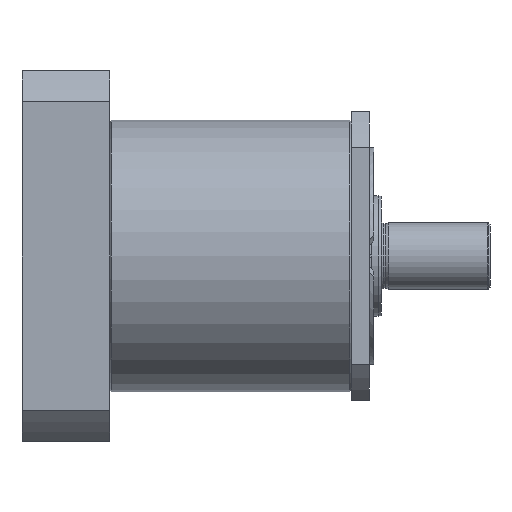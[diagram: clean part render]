
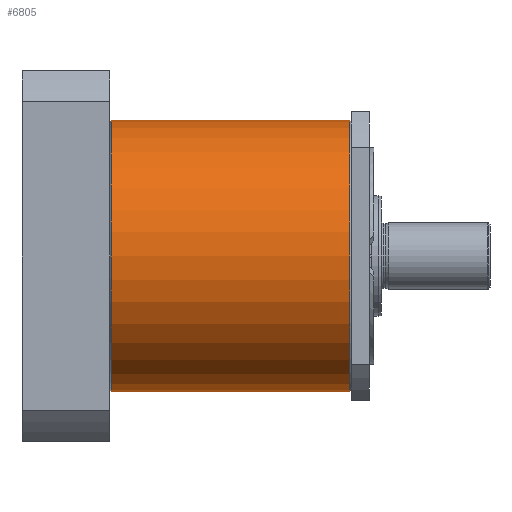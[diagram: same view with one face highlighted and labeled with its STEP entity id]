
A CAD part, front view. The second image highlights one B-rep face of the part: STEP entity #6805.
In plain terms, the highlighted cylindrical face has radius 45 mm (diameter 90 mm), a partial arc.
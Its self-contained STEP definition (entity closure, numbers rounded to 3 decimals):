
#1176 = VERTEX_POINT ( 'NONE', #20531 ) ;
#1813 = DIRECTION ( 'NONE',  ( -1., 0., 0. ) ) ;
#3043 = DIRECTION ( 'NONE',  ( 1., 0., 0. ) ) ;
#3257 = CARTESIAN_POINT ( 'NONE',  ( 52.368, 0., 0. ) ) ;
#5235 = DIRECTION ( 'NONE',  ( 0., 0., -1. ) ) ;
#5957 = CARTESIAN_POINT ( 'NONE',  ( 79.5, 0., 0. ) ) ;
#6805 = ADVANCED_FACE ( 'NONE', ( #21091 ), #34905, .T. ) ;
#6898 = ORIENTED_EDGE ( 'NONE', *, *, #16941, .F. ) ;
#7119 = EDGE_CURVE ( 'NONE', #19966, #13484, #13419, .T. ) ;
#7195 = CARTESIAN_POINT ( 'NONE',  ( 0.5, 0., -45. ) ) ;
#8204 = CARTESIAN_POINT ( 'NONE',  ( 0.5, 0., 0. ) ) ;
#8206 = ORIENTED_EDGE ( 'NONE', *, *, #14536, .T. ) ;
#10763 = VERTEX_POINT ( 'NONE', #19552 ) ;
#11067 = CARTESIAN_POINT ( 'NONE',  ( 52.368, 0., -45. ) ) ;
#12331 = LINE ( 'NONE', #23971, #15083 ) ;
#13164 = AXIS2_PLACEMENT_3D ( 'NONE', #5957, #1813, #20180 ) ;
#13419 = CIRCLE ( 'NONE', #28913, 45. ) ;
#13484 = VERTEX_POINT ( 'NONE', #7195 ) ;
#14536 = EDGE_CURVE ( 'NONE', #1176, #10763, #21761, .T. ) ;
#15083 = VECTOR ( 'NONE', #21263, 1000. ) ;
#16653 = ORIENTED_EDGE ( 'NONE', *, *, #7119, .T. ) ;
#16941 = EDGE_CURVE ( 'NONE', #19966, #10763, #12331, .T. ) ;
#19552 = CARTESIAN_POINT ( 'NONE',  ( 79.5, 0., 45. ) ) ;
#19966 = VERTEX_POINT ( 'NONE', #24249 ) ;
#20180 = DIRECTION ( 'NONE',  ( 0., 0., 1. ) ) ;
#20531 = CARTESIAN_POINT ( 'NONE',  ( 79.5, 0., -45. ) ) ;
#20589 = ORIENTED_EDGE ( 'NONE', *, *, #35152, .T. ) ;
#20616 = EDGE_LOOP ( 'NONE', ( #6898, #16653, #20589, #8206 ) ) ;
#21091 = FACE_OUTER_BOUND ( 'NONE', #20616, .T. ) ;
#21263 = DIRECTION ( 'NONE',  ( 1., 0., 0. ) ) ;
#21761 = CIRCLE ( 'NONE', #13164, 45. ) ;
#23971 = CARTESIAN_POINT ( 'NONE',  ( 52.368, 0., 45. ) ) ;
#24249 = CARTESIAN_POINT ( 'NONE',  ( 0.5, 0., 45. ) ) ;
#24296 = DIRECTION ( 'NONE',  ( 0., 0., -1. ) ) ;
#27233 = AXIS2_PLACEMENT_3D ( 'NONE', #3257, #29917, #5235 ) ;
#27391 = LINE ( 'NONE', #11067, #29680 ) ;
#28913 = AXIS2_PLACEMENT_3D ( 'NONE', #8204, #3043, #24296 ) ;
#29680 = VECTOR ( 'NONE', #30440, 1000. ) ;
#29917 = DIRECTION ( 'NONE',  ( 1., 0., 0. ) ) ;
#30440 = DIRECTION ( 'NONE',  ( 1., 0., 0. ) ) ;
#34905 = CYLINDRICAL_SURFACE ( 'NONE', #27233, 45. ) ;
#35152 = EDGE_CURVE ( 'NONE', #13484, #1176, #27391, .T. ) ;
